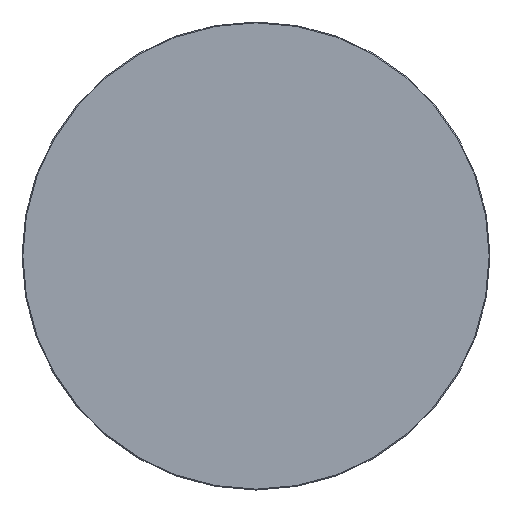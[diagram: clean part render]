
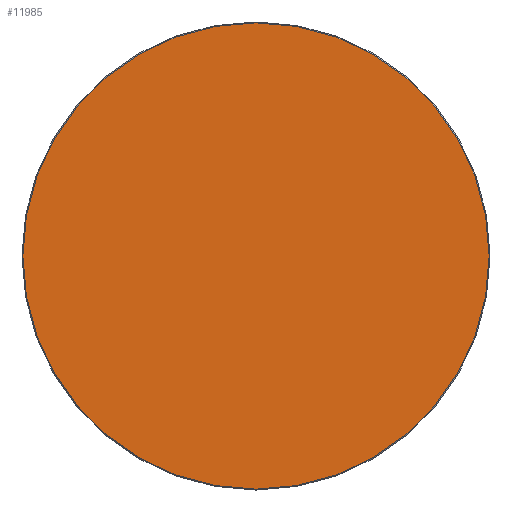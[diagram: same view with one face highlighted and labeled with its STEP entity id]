
A CAD part, top view. The second image highlights one B-rep face of the part: STEP entity #11985.
In plain terms, the highlighted planar face has unit normal (0, 0, 1).
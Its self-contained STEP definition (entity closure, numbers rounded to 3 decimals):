
#11910=CARTESIAN_POINT('',(0.,0.,20.));
#11911=DIRECTION('',(1.,0.,0.));
#11912=DIRECTION('',(0.,0.,1.));
#11913=AXIS2_PLACEMENT_3D('',#11910,#11912,#11911);
#11914=PLANE('',#11913);
#11915=CARTESIAN_POINT('',(-0.5,-398.5,20.));
#11916=VERTEX_POINT('',#11915);
#11917=CARTESIAN_POINT('',(0.5,-398.5,20.));
#11918=VERTEX_POINT('',#11917);
#11919=CARTESIAN_POINT('',(-0.5,-398.5,20.));
#11920=DIRECTION('',(1.,0.,0.));
#11921=VECTOR('',#11920,1.);
#11922=LINE('',#11919,#11921);
#11923=EDGE_CURVE('',#11916,#11918,#11922,.T.);
#11924=ORIENTED_EDGE('E105',*,*,#11923,.T.);
#11925=CARTESIAN_POINT('',(398.5,-0.5,20.));
#11926=VERTEX_POINT('',#11925);
#11927=CARTESIAN_POINT('',(0.5,-0.5,20.));
#11928=DIRECTION('',(0.,-1.,0.));
#11929=DIRECTION('',(0.,0.,1.));
#11930=AXIS2_PLACEMENT_3D('',#11927,#11929,#11928);
#11931=CIRCLE('',#11930,398.);
#11932=EDGE_CURVE('',#11918,#11926,#11931,.T.);
#11933=ORIENTED_EDGE('E107',*,*,#11932,.T.);
#11934=CARTESIAN_POINT('',(398.5,0.5,20.));
#11935=VERTEX_POINT('',#11934);
#11936=CARTESIAN_POINT('',(398.5,-0.5,20.));
#11937=DIRECTION('',(0.,1.,0.));
#11938=VECTOR('',#11937,1.);
#11939=LINE('',#11936,#11938);
#11940=EDGE_CURVE('',#11926,#11935,#11939,.T.);
#11941=ORIENTED_EDGE('E109',*,*,#11940,.T.);
#11942=CARTESIAN_POINT('',(0.5,398.5,20.));
#11943=VERTEX_POINT('',#11942);
#11944=CARTESIAN_POINT('',(0.5,0.5,20.));
#11945=DIRECTION('',(1.,0.,0.));
#11946=DIRECTION('',(0.,0.,1.));
#11947=AXIS2_PLACEMENT_3D('',#11944,#11946,#11945);
#11948=CIRCLE('',#11947,398.);
#11949=EDGE_CURVE('',#11935,#11943,#11948,.T.);
#11950=ORIENTED_EDGE('E111',*,*,#11949,.T.);
#11951=CARTESIAN_POINT('',(-0.5,398.5,20.));
#11952=VERTEX_POINT('',#11951);
#11953=CARTESIAN_POINT('',(0.5,398.5,20.));
#11954=DIRECTION('',(-1.,0.,0.));
#11955=VECTOR('',#11954,1.);
#11956=LINE('',#11953,#11955);
#11957=EDGE_CURVE('',#11943,#11952,#11956,.T.);
#11958=ORIENTED_EDGE('E113',*,*,#11957,.T.);
#11959=CARTESIAN_POINT('',(-398.5,0.5,20.));
#11960=VERTEX_POINT('',#11959);
#11961=CARTESIAN_POINT('',(-0.5,0.5,20.));
#11962=DIRECTION('',(0.,1.,0.));
#11963=DIRECTION('',(0.,0.,1.));
#11964=AXIS2_PLACEMENT_3D('',#11961,#11963,#11962);
#11965=CIRCLE('',#11964,398.);
#11966=EDGE_CURVE('',#11952,#11960,#11965,.T.);
#11967=ORIENTED_EDGE('E115',*,*,#11966,.T.);
#11968=CARTESIAN_POINT('',(-398.5,-0.5,20.));
#11969=VERTEX_POINT('',#11968);
#11970=CARTESIAN_POINT('',(-398.5,0.5,20.));
#11971=DIRECTION('',(0.,-1.,0.));
#11972=VECTOR('',#11971,1.);
#11973=LINE('',#11970,#11972);
#11974=EDGE_CURVE('',#11960,#11969,#11973,.T.);
#11975=ORIENTED_EDGE('E117',*,*,#11974,.T.);
#11976=CARTESIAN_POINT('',(-0.5,-0.5,20.));
#11977=DIRECTION('',(-1.,0.,0.));
#11978=DIRECTION('',(-0.,0.,1.));
#11979=AXIS2_PLACEMENT_3D('',#11976,#11978,#11977);
#11980=CIRCLE('',#11979,398.);
#11981=EDGE_CURVE('',#11969,#11916,#11980,.T.);
#11982=ORIENTED_EDGE('E119',*,*,#11981,.T.);
#11983=EDGE_LOOP('',(#11924,#11933,#11941,#11950,#11958,#11967,#11975,#11982));
#11984=FACE_OUTER_BOUND('',#11983,.T.);
#11985=ADVANCED_FACE('F2',(#11984),#11914,.T.);
